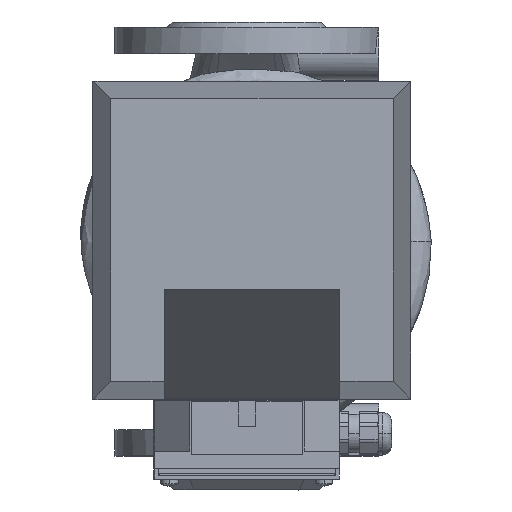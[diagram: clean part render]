
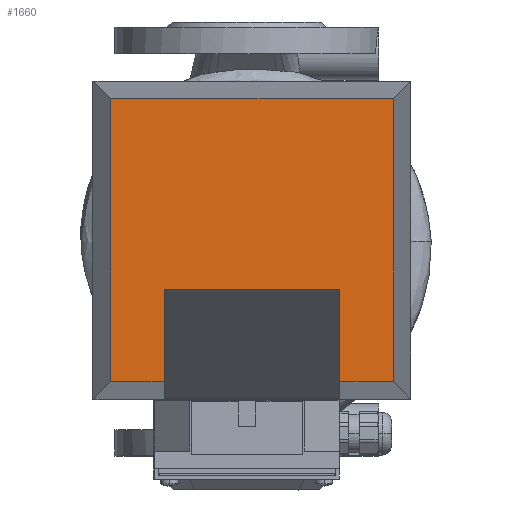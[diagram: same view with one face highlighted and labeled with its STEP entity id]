
A CAD part, top view. The second image highlights one B-rep face of the part: STEP entity #1660.
In plain terms, the highlighted planar face has unit normal (0, 0, 1) as drawn and (0, 1, 0) by its records, which use the part's own axes.
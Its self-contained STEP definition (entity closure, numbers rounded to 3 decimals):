
#1660=ADVANCED_FACE('',(#3039),#3040,.T.);
#1670=EDGE_CURVE('',#3052,#3055,#3056,.T.);
#3039=FACE_OUTER_BOUND('',#8645,.T.);
#3040=PLANE('',#8646);
#3052=VERTEX_POINT('',#8659);
#3055=VERTEX_POINT('',#8664);
#3056=LINE('',#8665,#8666);
#8645=EDGE_LOOP('',(#15138,#15139,#15140,#15141,#15142,#15143,#15144,#15145));
#8646=AXIS2_PLACEMENT_3D('',#15146,#15147,#15148);
#8659=CARTESIAN_POINT('',(50.0,114.0,118.64));
#8664=CARTESIAN_POINT('',(50.0,114.0,171.0));
#8665=CARTESIAN_POINT('',(50.0,114.0,90.179));
#8666=VECTOR('',#15174,1.0);
#15138=ORIENTED_EDGE('',*,*,#1670,.T.);
#15139=ORIENTED_EDGE('',*,*,#23906,.F.);
#15140=ORIENTED_EDGE('',*,*,#23914,.F.);
#15141=ORIENTED_EDGE('',*,*,#23916,.F.);
#15142=ORIENTED_EDGE('',*,*,#23908,.F.);
#15143=ORIENTED_EDGE('',*,*,#23902,.F.);
#15144=ORIENTED_EDGE('',*,*,#23895,.T.);
#15145=ORIENTED_EDGE('',*,*,#23898,.T.);
#15146=CARTESIAN_POINT('',(0.0,114.0,0.0));
#15147=DIRECTION('',(0.0,1.0,-0.0));
#15148=DIRECTION('',(-1.0,0.0,0.0));
#15174=DIRECTION('',(0.0,0.0,1.0));
#23895=EDGE_CURVE('',#39185,#39187,#39189,.T.);
#23898=EDGE_CURVE('',#39187,#3052,#39192,.T.);
#23902=EDGE_CURVE('',#39185,#39196,#39197,.T.);
#23906=EDGE_CURVE('',#39202,#3055,#39204,.T.);
#23908=EDGE_CURVE('',#39196,#39206,#39207,.T.);
#23914=EDGE_CURVE('',#39212,#39202,#39214,.T.);
#23916=EDGE_CURVE('',#39206,#39212,#39216,.T.);
#39185=VERTEX_POINT('',#48485);
#39187=VERTEX_POINT('',#48488);
#39189=LINE('',#48491,#48492);
#39192=LINE('',#48496,#48497);
#39196=VERTEX_POINT('',#48502);
#39197=LINE('',#48503,#48504);
#39202=VERTEX_POINT('',#48511);
#39204=LINE('',#48514,#48515);
#39206=VERTEX_POINT('',#48517);
#39207=LINE('',#48518,#48519);
#39212=VERTEX_POINT('',#48527);
#39214=LINE('',#48530,#48531);
#39216=LINE('',#48533,#48534);
#48485=CARTESIAN_POINT('',(-50.0,114.0,171.0));
#48488=CARTESIAN_POINT('',(-50.0,114.0,118.64));
#48491=CARTESIAN_POINT('',(-50.0,114.0,90.179));
#48492=VECTOR('',#56856,1.0);
#48496=CARTESIAN_POINT('',(25.0,114.0,118.64));
#48497=VECTOR('',#56858,1.0);
#48502=CARTESIAN_POINT('',(-80.5,114.0,171.0));
#48503=CARTESIAN_POINT('',(45.25,114.0,171.0));
#48504=VECTOR('',#56860,1.0);
#48511=CARTESIAN_POINT('',(80.5,114.0,171.0));
#48514=CARTESIAN_POINT('',(45.25,114.0,171.0));
#48515=VECTOR('',#56864,1.0);
#48517=CARTESIAN_POINT('',(-80.5,114.0,10.0));
#48518=CARTESIAN_POINT('',(-80.5,114.0,0.0));
#48519=VECTOR('',#56865,1.0);
#48527=CARTESIAN_POINT('',(80.5,114.0,10.0));
#48530=CARTESIAN_POINT('',(80.5,114.0,0.0));
#48531=VECTOR('',#56870,1.0);
#48533=CARTESIAN_POINT('',(45.25,114.0,10.0));
#48534=VECTOR('',#56871,1.0);
#56856=DIRECTION('',(-0.0,0.0,-1.0));
#56858=DIRECTION('',(1.0,-0.0,0.0));
#56860=DIRECTION('',(-1.0,0.0,-0.0));
#56864=DIRECTION('',(-1.0,0.0,-0.0));
#56865=DIRECTION('',(-0.0,-0.0,-1.0));
#56870=DIRECTION('',(-0.0,0.0,1.0));
#56871=DIRECTION('',(1.0,-0.0,-0.0));
